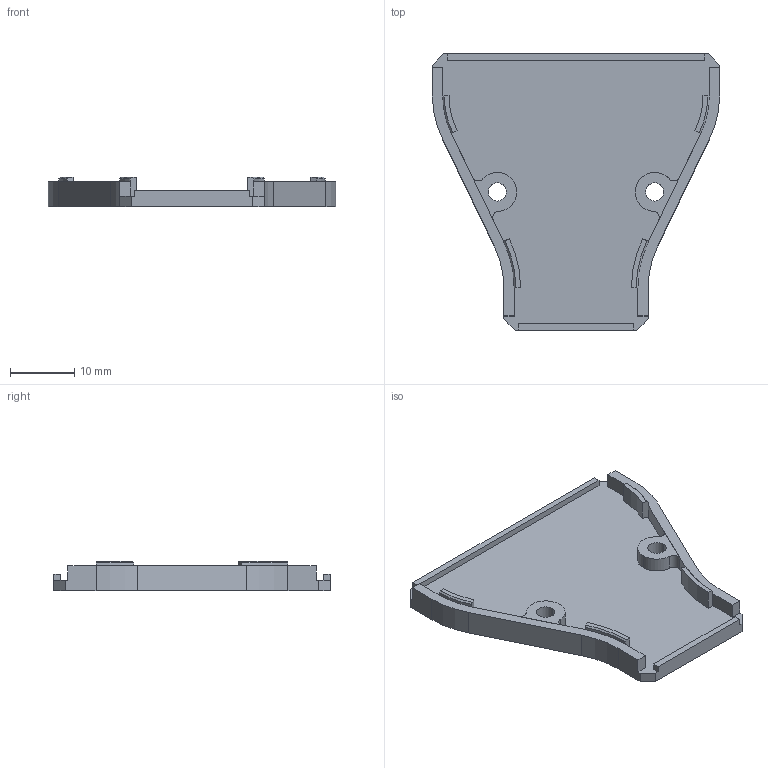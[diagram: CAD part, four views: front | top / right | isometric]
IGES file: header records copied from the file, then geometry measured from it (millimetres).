
Start section: START RECORD GO HERE.
Global section: file name: Oberteil.igs; native system: IBM CATIA IGES - CATIA Version 5 Release 19 ; preprocessor: CATIA Version 5 Release 19 ; author: Administrator; organization: M0000815; date: 20240107.231842; units: millimetre
Bounding box: 44.7 x 43 x 4.6 mm (x, y, z)
Surface area: 3770.2 mm2 (no closed solid volume)
Topology: 0 solids, 0 shells, 76 faces, 428 edges, 428 vertices
Faces by surface type: plane 48, revolution 28
